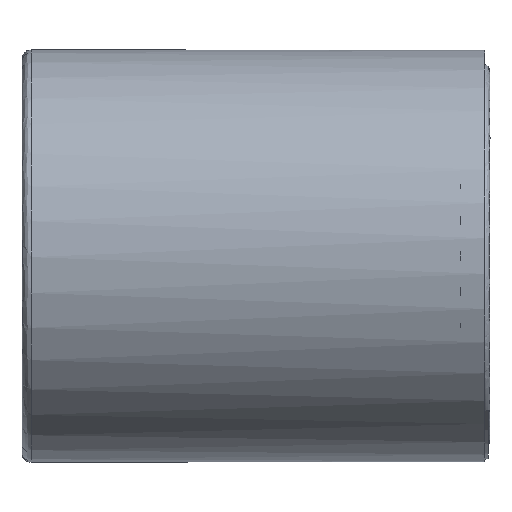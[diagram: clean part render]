
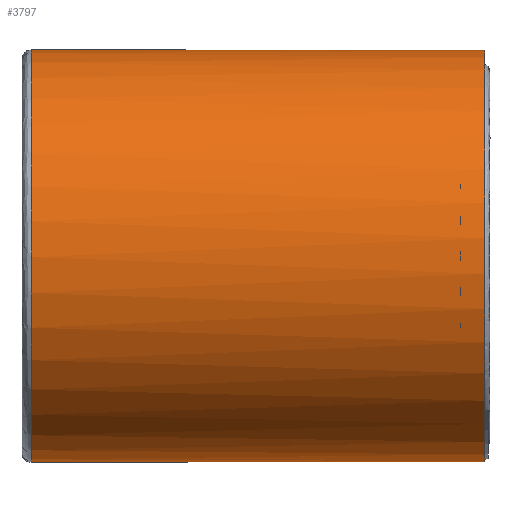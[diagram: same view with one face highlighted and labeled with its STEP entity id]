
A CAD part, front view. The second image highlights one B-rep face of the part: STEP entity #3797.
In plain terms, the highlighted cylindrical face has radius 22.5 mm (diameter 45 mm), a full revolution.
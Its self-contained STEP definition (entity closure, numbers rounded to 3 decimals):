
#14 = CIRCLE ( 'NONE', #4504, 22.5 ) ;
#87 = CARTESIAN_POINT ( 'NONE',  ( 24.966, 31.172, -16.95 ) ) ;
#138 = CIRCLE ( 'NONE', #4502, 22.5 ) ;
#171 = DIRECTION ( 'NONE',  ( 0., 1., 0. ) ) ;
#272 = VECTOR ( 'NONE', #939, 1000. ) ;
#337 = DIRECTION ( 'NONE',  ( 1., 0., 0. ) ) ;
#386 = DIRECTION ( 'NONE',  ( 0., 1., 0. ) ) ;
#625 = CIRCLE ( 'NONE', #4545, 22.5 ) ;
#655 = ORIENTED_EDGE ( 'NONE', *, *, #2671, .T. ) ;
#696 = ORIENTED_EDGE ( 'NONE', *, *, #2692, .T. ) ;
#729 = VERTEX_POINT ( 'NONE', #3950 ) ;
#939 = DIRECTION ( 'NONE',  ( -1., 0., 0. ) ) ;
#1030 = VERTEX_POINT ( 'NONE', #1620 ) ;
#1078 = VECTOR ( 'NONE', #3660, 1000. ) ;
#1162 = DIRECTION ( 'NONE',  ( 0., 1., 0. ) ) ;
#1174 = CARTESIAN_POINT ( 'NONE',  ( 24.966, 31.172, -16.95 ) ) ;
#1192 = LINE ( 'NONE', #3284, #1078 ) ;
#1203 = VERTEX_POINT ( 'NONE', #3776 ) ;
#1257 = ORIENTED_EDGE ( 'NONE', *, *, #2662, .T. ) ;
#1325 = CIRCLE ( 'NONE', #4762, 22.5 ) ;
#1346 = CARTESIAN_POINT ( 'NONE',  ( -24.534, 11.016, -6.95 ) ) ;
#1482 = CARTESIAN_POINT ( 'NONE',  ( 14.966, 31.268, 2.855 ) ) ;
#1552 = DIRECTION ( 'NONE',  ( -1., 0., 0. ) ) ;
#1570 = DIRECTION ( 'NONE',  ( 1., 0., 0. ) ) ;
#1584 = DIRECTION ( 'NONE',  ( 1., 0., 0. ) ) ;
#1597 = CIRCLE ( 'NONE', #4770, 22.5 ) ;
#1620 = CARTESIAN_POINT ( 'NONE',  ( -24.534, 33.516, -6.95 ) ) ;
#1702 = CYLINDRICAL_SURFACE ( 'NONE', #3603, 22.5 ) ;
#1774 = DIRECTION ( 'NONE',  ( 0., 1., 0. ) ) ;
#1838 = FACE_OUTER_BOUND ( 'NONE', #2927, .T. ) ;
#1858 = ORIENTED_EDGE ( 'NONE', *, *, #2530, .T. ) ;
#1879 = VERTEX_POINT ( 'NONE', #1482 ) ;
#2163 = LINE ( 'NONE', #1174, #4196 ) ;
#2178 = CARTESIAN_POINT ( 'NONE',  ( 19.966, 31.268, -16.754 ) ) ;
#2230 = VERTEX_POINT ( 'NONE', #3530 ) ;
#2387 = CARTESIAN_POINT ( 'NONE',  ( 4.966, 11.016, -6.95 ) ) ;
#2420 = LINE ( 'NONE', #2178, #272 ) ;
#2430 = VERTEX_POINT ( 'NONE', #4137 ) ;
#2437 = VERTEX_POINT ( 'NONE', #87 ) ;
#2523 = EDGE_CURVE ( 'NONE', #1030, #1030, #1597, .T. ) ;
#2530 = EDGE_CURVE ( 'NONE', #3272, #2430, #1325, .T. ) ;
#2538 = EDGE_CURVE ( 'NONE', #729, #3272, #2420, .T. ) ;
#2597 = DIRECTION ( 'NONE',  ( -1., 0., 0. ) ) ;
#2658 = EDGE_CURVE ( 'NONE', #4642, #1879, #4792, .T. ) ;
#2662 = EDGE_CURVE ( 'NONE', #1879, #729, #625, .T. ) ;
#2671 = EDGE_CURVE ( 'NONE', #2230, #4642, #138, .T. ) ;
#2676 = EDGE_CURVE ( 'NONE', #1203, #2230, #1192, .T. ) ;
#2687 = EDGE_CURVE ( 'NONE', #2430, #2437, #2163, .T. ) ;
#2692 = EDGE_CURVE ( 'NONE', #2437, #1203, #14, .T. ) ;
#2792 = ORIENTED_EDGE ( 'NONE', *, *, #2523, .T. ) ;
#2849 = DIRECTION ( 'NONE',  ( 0., 1., 0. ) ) ;
#2855 = VECTOR ( 'NONE', #337, 1000. ) ;
#2871 = DIRECTION ( 'NONE',  ( -1., 0., 0. ) ) ;
#2927 = EDGE_LOOP ( 'NONE', ( #4990, #696, #3798, #655, #4700, #1257, #5157, #1858 ) ) ;
#3272 = VERTEX_POINT ( 'NONE', #4228 ) ;
#3284 = CARTESIAN_POINT ( 'NONE',  ( 24.966, 31.172, 3.05 ) ) ;
#3530 = CARTESIAN_POINT ( 'NONE',  ( 4.966, 31.172, 3.05 ) ) ;
#3603 = AXIS2_PLACEMENT_3D ( 'NONE', #4035, #1570, #1162 ) ;
#3660 = DIRECTION ( 'NONE',  ( -1., 0., 0. ) ) ;
#3776 = CARTESIAN_POINT ( 'NONE',  ( 24.966, 31.172, 3.05 ) ) ;
#3797 = ADVANCED_FACE ( 'NONE', ( #1838, #4890 ), #1702, .T. ) ;
#3798 = ORIENTED_EDGE ( 'NONE', *, *, #2676, .T. ) ;
#3866 = CARTESIAN_POINT ( 'NONE',  ( 4.966, 31.268, 2.855 ) ) ;
#3950 = CARTESIAN_POINT ( 'NONE',  ( 14.966, 31.268, -16.754 ) ) ;
#4019 = CARTESIAN_POINT ( 'NONE',  ( 14.966, 11.016, -6.95 ) ) ;
#4035 = CARTESIAN_POINT ( 'NONE',  ( 24.966, 11.016, -6.95 ) ) ;
#4137 = CARTESIAN_POINT ( 'NONE',  ( 4.966, 31.172, -16.95 ) ) ;
#4196 = VECTOR ( 'NONE', #1584, 1000. ) ;
#4202 = DIRECTION ( 'NONE',  ( 1., 0., 0. ) ) ;
#4228 = CARTESIAN_POINT ( 'NONE',  ( 4.966, 31.268, -16.754 ) ) ;
#4394 = DIRECTION ( 'NONE',  ( 0., 1., 0. ) ) ;
#4502 = AXIS2_PLACEMENT_3D ( 'NONE', #2387, #5146, #2849 ) ;
#4504 = AXIS2_PLACEMENT_3D ( 'NONE', #5163, #2871, #386 ) ;
#4545 = AXIS2_PLACEMENT_3D ( 'NONE', #4019, #1552, #4394 ) ;
#4574 = EDGE_LOOP ( 'NONE', ( #2792 ) ) ;
#4642 = VERTEX_POINT ( 'NONE', #3866 ) ;
#4700 = ORIENTED_EDGE ( 'NONE', *, *, #2658, .T. ) ;
#4762 = AXIS2_PLACEMENT_3D ( 'NONE', #4956, #2597, #171 ) ;
#4770 = AXIS2_PLACEMENT_3D ( 'NONE', #1346, #4202, #1774 ) ;
#4792 = LINE ( 'NONE', #5117, #2855 ) ;
#4890 = FACE_OUTER_BOUND ( 'NONE', #4574, .T. ) ;
#4956 = CARTESIAN_POINT ( 'NONE',  ( 4.966, 11.016, -6.95 ) ) ;
#4990 = ORIENTED_EDGE ( 'NONE', *, *, #2687, .T. ) ;
#5117 = CARTESIAN_POINT ( 'NONE',  ( 19.966, 31.268, 2.855 ) ) ;
#5146 = DIRECTION ( 'NONE',  ( -1., 0., 0. ) ) ;
#5157 = ORIENTED_EDGE ( 'NONE', *, *, #2538, .T. ) ;
#5163 = CARTESIAN_POINT ( 'NONE',  ( 24.966, 11.016, -6.95 ) ) ;
